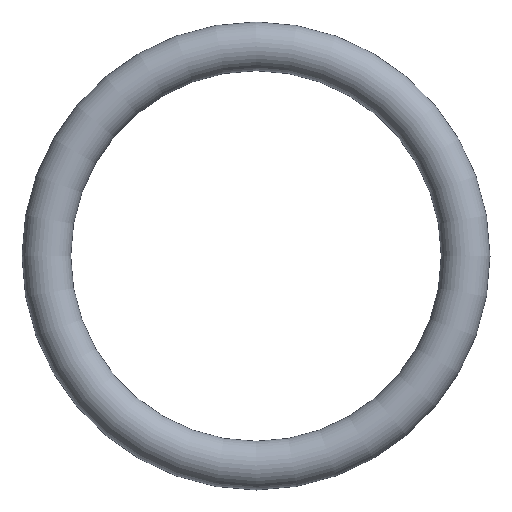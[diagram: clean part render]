
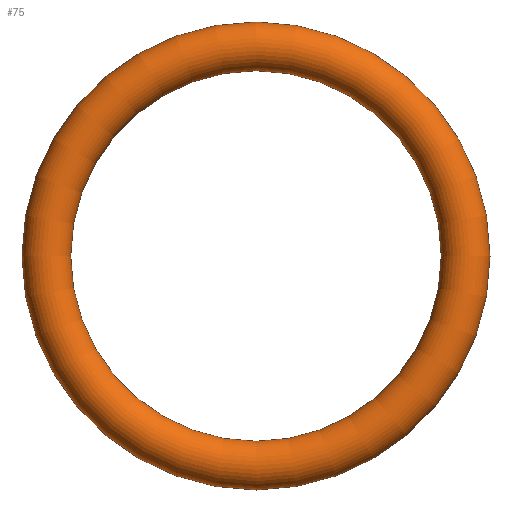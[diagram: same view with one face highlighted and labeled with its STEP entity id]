
A CAD part, front view. The second image highlights one B-rep face of the part: STEP entity #75.
In plain terms, the highlighted toroidal (fillet/blend) face has major radius 10.75 mm and minor radius 1.25 mm.
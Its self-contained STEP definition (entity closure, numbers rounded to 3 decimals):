
#75 = ADVANCED_FACE( '', ( #77 ), #78, .T. );
#77 = FACE_BOUND( '', #79, .T. );
#78 = TOROIDAL_SURFACE( '', #80, 10.75, 1.25 );
#79 = VERTEX_LOOP( '', #81 );
#80 = AXIS2_PLACEMENT_3D( '', #82, #83, #84 );
#81 = VERTEX_POINT( '', #85 );
#82 = CARTESIAN_POINT( '', ( 0., 0., 0. ) );
#83 = DIRECTION( '', ( 0., -1., 0. ) );
#84 = DIRECTION( '', ( 0., 0., -1. ) );
#85 = CARTESIAN_POINT( '', ( 0., 0., -12. ) );
